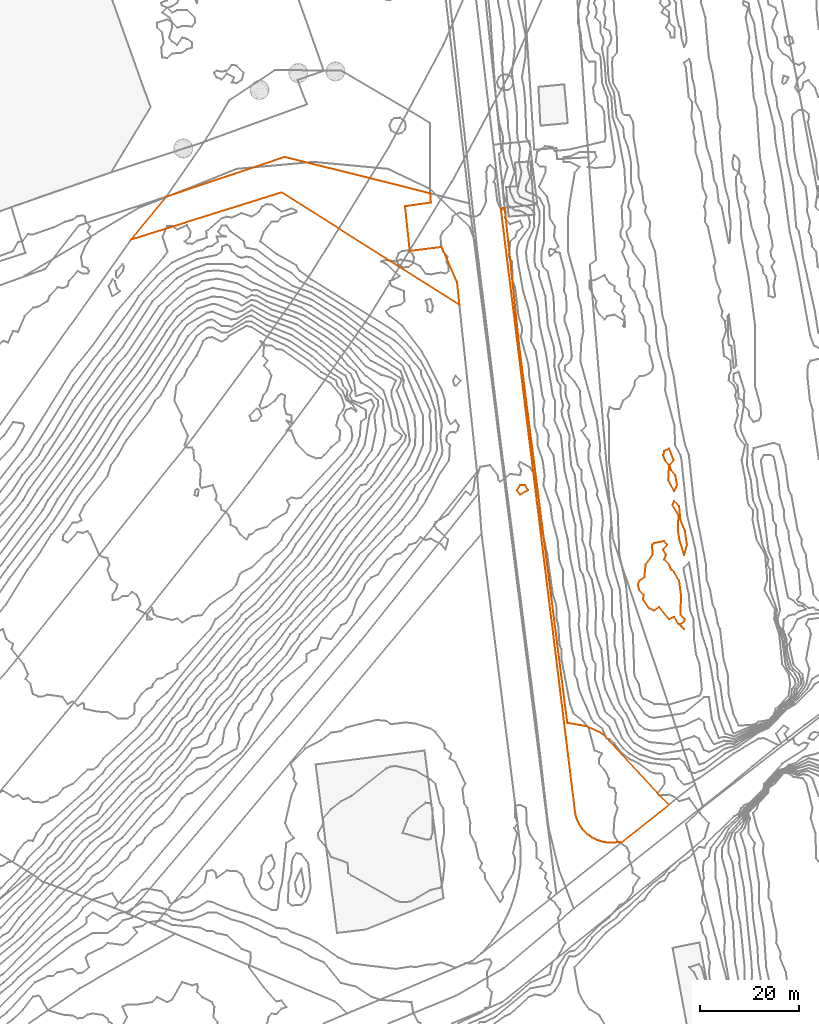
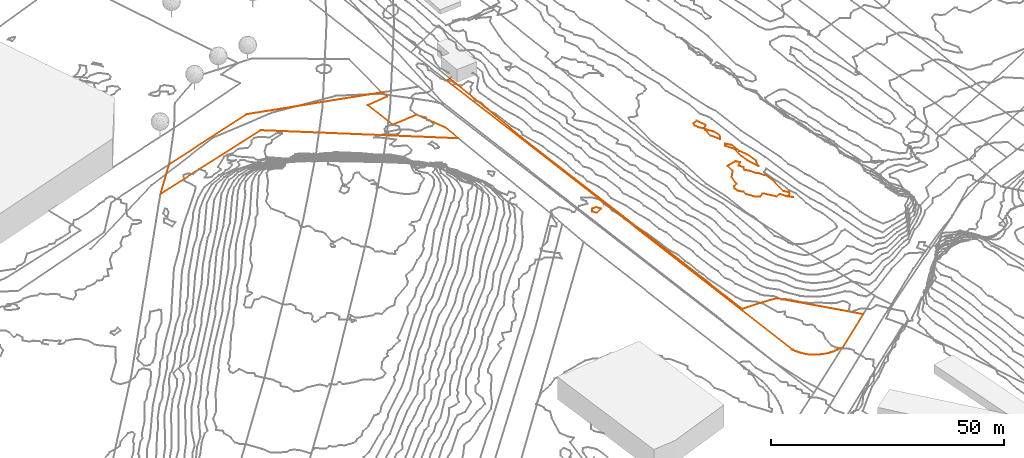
# Not in any storey, part 292 of 419: 6 proxies.
"""IFC2X3 model written with IfcOpenShell, lengths in metres."""

from ifc_helpers import new_model, entity, si_unit, frame, origin_with_axes, place, context, subcontext, project, element, save


model = new_model("IFC2X3")

# Units and contexts
model_context = context("Model", 3, precision=1e-05, world=origin_with_axes())
body_context = subcontext(model_context, "Body", "Model", "MODEL_VIEW")
ifc_project = project(units=[si_unit("AREAUNIT", "SQUARE_METRE"), si_unit("LENGTHUNIT", "METRE")], contexts=[model_context])

# Proxies
proxy_1_placement = place(None, frame((59.8320204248, 828.2876909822, 21.2628955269), z_axis=(0.0, 0.0, 1.0), x_axis=(1.0, 0.0, 0.0)))
element("IfcBuildingElementProxy", 1, at=proxy_1_placement, Name="Cadastre 390", ObjectType="NOTDEFINED", context=body_context, shape_type="GeometricCurveSet", body=[
    entity("IfcGeometricCurveSet", [entity("IfcPolyline", [entity("IfcCartesianPoint", [7.1, 8.6200000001, -0.0128955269]), entity("IfcCartesianPoint", [30.88, 16.6100000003, -0.055895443]), entity("IfcCartesianPoint", [60.2000000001, 9.2800000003, -0.1629391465]), entity("IfcCartesianPoint", [60.3300000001, 7.4500000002, -0.1819955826]), entity("IfcCartesianPoint", [55.12, 6.7100000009, -0.1667352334]), entity("IfcCartesianPoint", [56.0800000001, -2.2999999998, -0.1401957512]), entity("IfcCartesianPoint", [62.51, -1.5, -0.2872208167]), entity("IfcCartesianPoint", [65.5800000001, -8.5099999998, -0.5017796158]), entity("IfcCartesianPoint", [66.0700000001, -13.1699999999, -0.614591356]), entity("IfcCartesianPoint", [30.27, 9.4900000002, 0.2892662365]), entity("IfcCartesianPoint", [0.0, 0.0, 0.0]), entity("IfcCartesianPoint", [7.1, 8.6200000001, -0.0128955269])])]),
])
proxy_2_placement = place(None, frame((134.2320204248, 834.5476909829, 21.0159598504), z_axis=(0.0, 0.0, 1.0), x_axis=(1.0, 0.0, 0.0)))
element("IfcBuildingElementProxy", 2, at=proxy_2_placement, Name="Cadastre 395", ObjectType="NOTDEFINED", context=body_context, shape_type="GeometricCurveSet", body=[
    entity("IfcGeometricCurveSet", [entity("IfcPolyline", [entity("IfcCartesianPoint", [0.78, 0.0899999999, 0.249023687]), entity("IfcCartesianPoint", [3.64, -27.1699999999, -0.2923514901]), entity("IfcCartesianPoint", [13.37, -103.4800000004, -1.6244261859]), entity("IfcCartesianPoint", [17.21, -104.1600000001, -1.0138952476]), entity("IfcCartesianPoint", [20.6, -105.7400000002, 0.0138554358]), entity("IfcCartesianPoint", [33.78, -119.96, -0.139861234]), entity("IfcCartesianPoint", [24.24, -127.5200000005, -1.017103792]), entity("IfcCartesianPoint", [23.54, -127.4400000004, -1.04143798]), entity("IfcCartesianPoint", [23.0, -127.5300000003, -1.0770958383]), entity("IfcCartesianPoint", [22.46, -127.5700000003, -1.1121195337]), entity("IfcCartesianPoint", [21.92, -127.5800000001, -1.1459752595]), entity("IfcCartesianPoint", [21.38, -127.54, -1.1759149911]), entity("IfcCartesianPoint", [20.85, -127.4700000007, -1.2021596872]), entity("IfcCartesianPoint", [20.3199999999, -127.3500000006, -1.2257203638]), entity("IfcCartesianPoint", [19.8, -127.2000000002, -1.2609204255]), entity("IfcCartesianPoint", [19.3, -127.0100000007, -1.2891284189]), entity("IfcCartesianPoint", [18.8100000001, -126.7800000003, -1.3363300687]), entity("IfcCartesianPoint", [18.34, -126.5200000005, -1.3814378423]), entity("IfcCartesianPoint", [17.89, -126.2200000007, -1.4076731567]), entity("IfcCartesianPoint", [17.46, -125.9000000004, -1.439960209]), entity("IfcCartesianPoint", [17.0600000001, -125.5300000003, -1.452759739]), entity("IfcCartesianPoint", [16.6800000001, -125.1500000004, -1.4603591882]), entity("IfcCartesianPoint", [16.34, -124.7300000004, -1.4624433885]), entity("IfcCartesianPoint", [16.03, -124.29, -1.4635976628]), entity("IfcCartesianPoint", [15.75, -123.8300000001, -1.4789077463]), entity("IfcCartesianPoint", [15.5, -123.3500000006, -1.4964796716]), entity("IfcCartesianPoint", [15.28, -122.8500000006, -1.5103595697]), entity("IfcCartesianPoint", [15.11, -122.3399999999, -1.5222595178]), entity("IfcCartesianPoint", [15.0, -122.0100000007, -1.5322555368]), entity("IfcCartesianPoint", [14.98, -121.8200000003, -1.534105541]), entity("IfcCartesianPoint", [0.0, 0.0, 0.0]), entity("IfcCartesianPoint", [0.78, 0.0899999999, 0.249023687])])]),
])
proxy_3_placement = place(None, frame((137.4766324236, 777.8976909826, 20.0), z_axis=(0.0, 0.0, 1.0), x_axis=(1.0, 0.0, 0.0)))
element("IfcBuildingElementProxy", 3, at=proxy_3_placement, Name="Contour 20.0 m", ObjectType="NOTDEFINED", context=body_context, shape_type="GeometricCurveSet", body=[
    entity("IfcGeometricCurveSet", [entity("IfcPolyline", [entity("IfcCartesianPoint", [2.2153880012, 0.0, 0.0]), entity("IfcCartesianPoint", [0.6153880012, -0.8888865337, 0.0]), entity("IfcCartesianPoint", [0.0, 0.0, 0.0]), entity("IfcCartesianPoint", [0.6153880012, 1.0000142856, 0.0]), entity("IfcCartesianPoint", [1.6154879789, 1.0, 0.0]), entity("IfcCartesianPoint", [2.2153880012, 0.0, 0.0])])]),
])
proxy_4_placement = place(None, frame((166.8888965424, 784.8976909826, 28.0), z_axis=(0.0, 0.0, 1.0), x_axis=(1.0, 0.0, 0.0)))
element("IfcBuildingElementProxy", 4, at=proxy_4_placement, Name="Contour 28.0 m", ObjectType="NOTDEFINED", context=body_context, shape_type="GeometricCurveSet", body=[
    entity("IfcGeometricCurveSet", [entity("IfcPolyline", [entity("IfcCartesianPoint", [2.2031238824, -7.1724117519, 0.0]), entity("IfcCartesianPoint", [2.7676398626, -6.0, 0.0]), entity("IfcCartesianPoint", [2.4303960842, -4.0, 0.0]), entity("IfcCartesianPoint", [1.6031219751, -3.0, 0.0]), entity("IfcCartesianPoint", [1.2586806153, -2.0, 0.0]), entity("IfcCartesianPoint", [2.1014298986, -1.0, 0.0]), entity("IfcCartesianPoint", [1.2031238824, 1.3181814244, 0.0]), entity("IfcCartesianPoint", [0.2031238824, 0.8666632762, 0.0]), entity("IfcCartesianPoint", [0.0, 0.0, 0.0]), entity("IfcCartesianPoint", [0.3197899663, -1.0, 0.0]), entity("IfcCartesianPoint", [1.1728201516, -2.0, 0.0]), entity("IfcCartesianPoint", [1.0174104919, -5.0, 0.0]), entity("IfcCartesianPoint", [2.2031238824, -7.1724117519, 0.0])])]),
])
proxy_5_placement = place(None, frame((168.7383614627, 774.8976909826, 28.0), z_axis=(0.0, 0.0, 1.0), x_axis=(1.0, 0.0, 0.0)))
element("IfcBuildingElementProxy", 5, at=proxy_5_placement, Name="Contour 28.0 m", ObjectType="NOTDEFINED", context=body_context, shape_type="GeometricCurveSet", body=[
    entity("IfcGeometricCurveSet", [entity("IfcPolyline", [entity("IfcCartesianPoint", [2.3536589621, -10.0909106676, 0.0]), entity("IfcCartesianPoint", [2.9172951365, -8.0, 0.0]), entity("IfcCartesianPoint", [2.4894619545, -5.0, 0.0]), entity("IfcCartesianPoint", [1.6168171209, -3.0, 0.0]), entity("IfcCartesianPoint", [1.3536589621, -0.2499976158, 0.0]), entity("IfcCartesianPoint", [0.3536589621, 0.8285731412, 0.0]), entity("IfcCartesianPoint", [0.0, 0.0, 0.0]), entity("IfcCartesianPoint", [1.2286607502, -2.0, 0.0]), entity("IfcCartesianPoint", [1.084841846, -5.0, 0.0]), entity("IfcCartesianPoint", [1.3953266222, -7.0, 0.0]), entity("IfcCartesianPoint", [2.3536589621, -10.0909106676, 0.0])])]),
])
proxy_6_placement = place(None, frame((161.814244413, 758.8976909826, 29.0), z_axis=(0.0, 0.0, 1.0), x_axis=(1.0, 0.0, 0.0)))
element("IfcBuildingElementProxy", 6, at=proxy_6_placement, Name="Contour 29.0 m", ObjectType="NOTDEFINED", context=body_context, shape_type="GeometricCurveSet", body=[
    entity("IfcGeometricCurveSet", [entity("IfcPolyline", [entity("IfcCartesianPoint", [9.2777826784, -9.0, 0.0]), entity("IfcCartesianPoint", [8.1349149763, -8.0, 0.0]), entity("IfcCartesianPoint", [7.2777760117, -6.500016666, 0.0]), entity("IfcCartesianPoint", [6.2777426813, -7.0, 0.0]), entity("IfcCartesianPoint", [4.2777760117, -4.5000249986, 0.0]), entity("IfcCartesianPoint", [3.2777760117, -5.25, 0.0]), entity("IfcCartesianPoint", [2.2777760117, -4.7999999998, 0.0]), entity("IfcCartesianPoint", [1.05554908, -3.0, 0.0]), entity("IfcCartesianPoint", [1.0777721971, -2.0, 0.0]), entity("IfcCartesianPoint", [0.1825361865, -1.0, 0.0]), entity("IfcCartesianPoint", [0.0, 0.0, 0.0]), entity("IfcCartesianPoint", [0.2777760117, 0.8333280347, 0.0]), entity("IfcCartesianPoint", [1.2777760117, 1.5000499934, 0.0]), entity("IfcCartesianPoint", [1.5277760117, 4.0, 0.0]), entity("IfcCartesianPoint", [2.9444426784, 6.0, 0.0]), entity("IfcCartesianPoint", [2.8232321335, 8.0, 0.0]), entity("IfcCartesianPoint", [3.2777760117, 8.3333290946, 0.0]), entity("IfcCartesianPoint", [5.2777760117, 8.75, 0.0]), entity("IfcCartesianPoint", [5.8777760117, 8.0, 0.0]), entity("IfcCartesianPoint", [5.0277760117, 7.0, 0.0]), entity("IfcCartesianPoint", [5.6111093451, 6.0, 0.0]), entity("IfcCartesianPoint", [5.2778010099, 5.0, 0.0]), entity("IfcCartesianPoint", [6.2777760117, 4.0000249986, 0.0]), entity("IfcCartesianPoint", [6.6414186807, 3.0, 0.0]), entity("IfcCartesianPoint", [7.2777760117, 2.5000071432, 0.0]), entity("IfcCartesianPoint", [8.2777760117, 0.749996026, 0.0]), entity("IfcCartesianPoint", [8.6388860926, -2.0, 0.0]), entity("IfcCartesianPoint", [8.5777817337, -6.0, 0.0]), entity("IfcCartesianPoint", [9.3634921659, -7.0, 0.0]), entity("IfcCartesianPoint", [9.2777760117, -7.4285714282, 0.0]), entity("IfcCartesianPoint", [8.4777760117, -8.0, 0.0]), entity("IfcCartesianPoint", [9.2777826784, -9.0, 0.0])])]),
])

save(model, "model.ifc")
